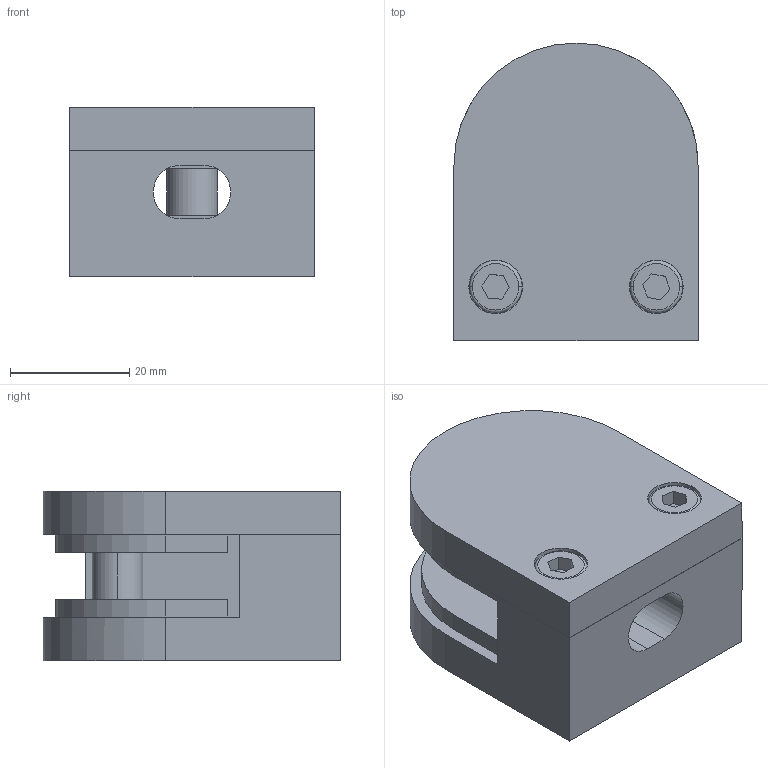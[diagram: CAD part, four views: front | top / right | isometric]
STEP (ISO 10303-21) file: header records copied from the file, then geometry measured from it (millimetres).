
FILE_DESCRIPTION (( 'STEP AP203' ), '1' );
FILE_NAME ('3D_GG4002_Flach x8_188758150.STEP', '2024-11-01T11:28:42', ( '' ), ( '' ), 'SwSTEP 2.0', 'SolidWorks 2023', '' );
FILE_SCHEMA (( 'CONFIG_CONTROL_DESIGN' ));
Length unit declared in the file: millimetre
Products named in the file (1): 3D_GG4002_Flach x8_188758150
Bounding box: 41 x 50 x 28.5 mm (x, y, z)
Volume: 41829.5 mm3; surface area: 19838.1 mm2
Topology: 7 solids, 7 shells, 117 faces, 259 edges, 170 vertices
Faces by surface type: plane 63, cylinder 46, torus 4, cone 4
Entity records: 3339 total; most frequent: DIRECTION 600, CARTESIAN_POINT 547, ORIENTED_EDGE 518, EDGE_CURVE 259, AXIS2_PLACEMENT_3D 223, VERTEX_POINT 170, LINE 154, VECTOR 154
